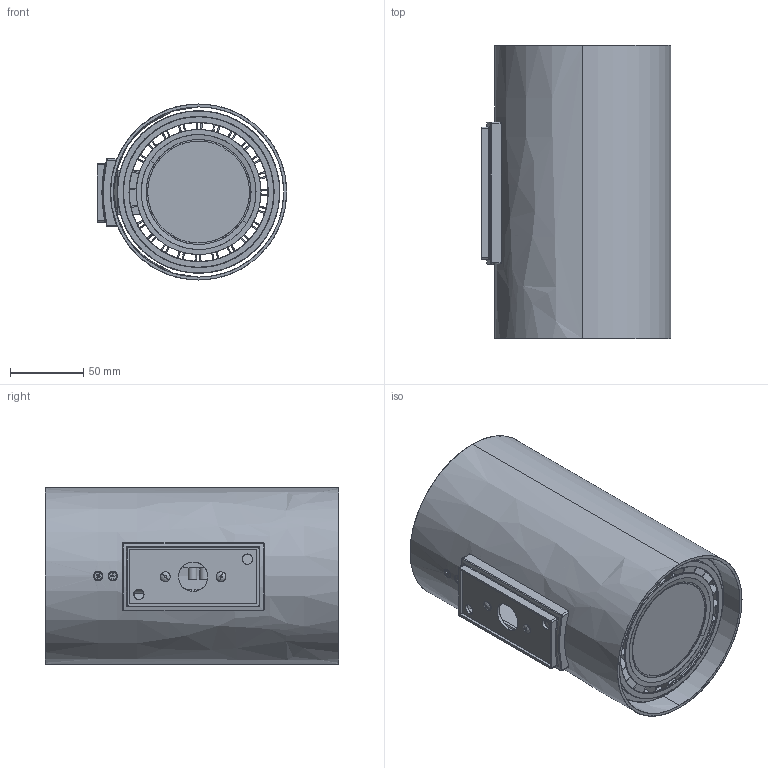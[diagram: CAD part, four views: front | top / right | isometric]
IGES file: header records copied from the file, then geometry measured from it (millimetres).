
Start section: SolidWorks IGES file using analytic representation for surfaces
Global section: file name: E:\3D lampy\Tube\Tube_9317,9318,9320.IGS; native system: SolidWorks 2017; preprocessor: SolidWorks 2017; author: Asia; date: 180302.123257; units: millimetre
Bounding box: 129 x 200 x 120 mm (x, y, z)
Surface area: 304177.8 mm2 (no closed solid volume)
Topology: 0 solids, 0 shells, 1889 faces, 44392 edges, 53522 vertices
Faces by surface type: bspline 1029, revolution 860
